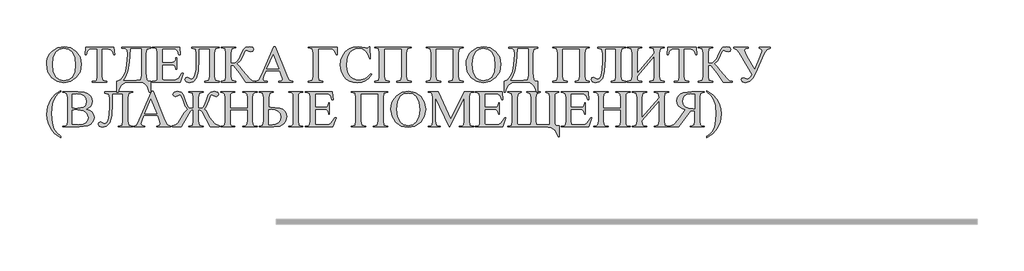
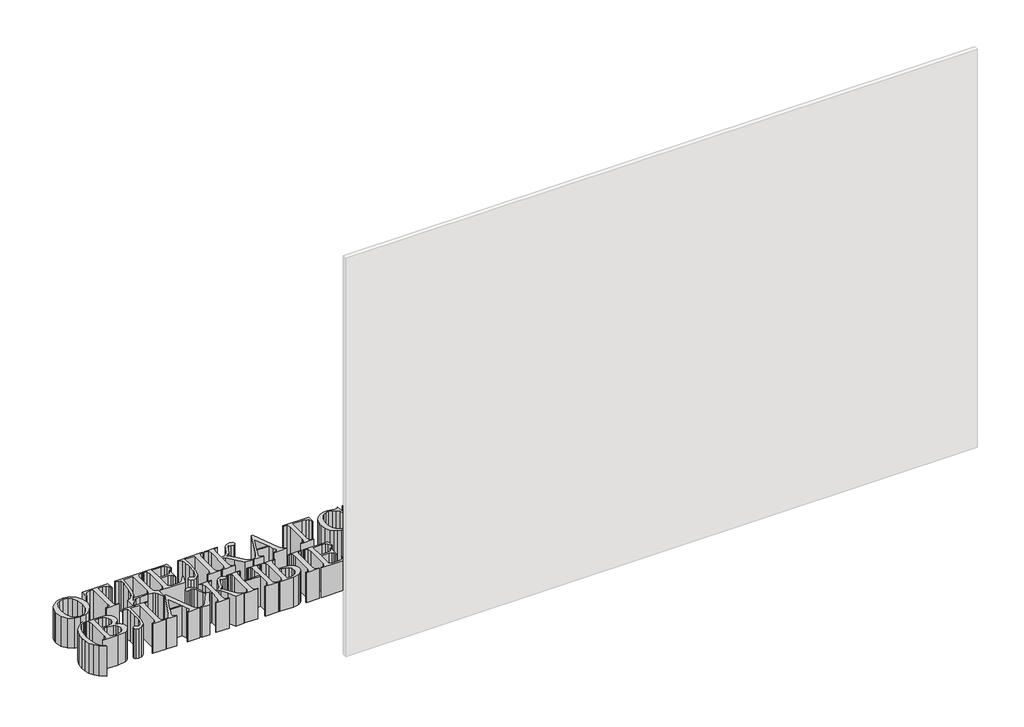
# One storey, part 2 of 17: 1 proxy.
"""IFC4 building model written with IfcOpenShell, lengths in millimetres."""

from ifc_helpers import new_model, si_unit, origin, origin_with_axes, place, context, project, spatial, polyline, outline, extrude, element, save

model = new_model("IFC4")

# Units and contexts
model_context = context("Model", 3, world=origin())
ifc_project = project(units=[si_unit("LENGTHUNIT", "METRE", prefix="MILLI")], contexts=[model_context])

# Site, building, storey
site = spatial("IfcSite", under=ifc_project)
building = spatial("IfcBuilding", under=site)
storey = spatial("IfcBuildingStorey", under=building, Name="Уровень 1", Elevation=0.0)

# Proxy
placement = place(None, origin())
element("IfcBuildingElementProxy", 1, Name="SG_Текст 2", ObjectType="SG_Текст 2", at=placement, inside=storey, context=model_context, shape_type="SweptSolid", body=[
    extrude(outline(polyline([(-694.4542029, -15782.53194), (-666.748358, -15787.9926565), (-643.0048009, -15804.3748058), (-626.682991, -15828.9228883), (-621.2423877, -15858.8814045), (-626.7232173, -15889.6897006), (-643.165706, -15914.7758095), (-667.3919784, -15931.444571), (-696.2241589, -15937.0008249), (-725.2021597, -15931.5803347), (-749.1418199, -15915.3188642), (-765.2071873, -15890.4489715), (-770.5623098, -15859.2032146), (-769.0161124, -15842.4313733), (-764.3775204, -15827.2736112), (-756.6465337, -15813.7299282), (-745.8231524, -15801.8003244), (-722.2405004, -15787.3490361), (-694.4542029, -15782.53194)]), holes=[polyline([(-696.5861954, -15790.2553843), (-715.0299411, -15793.9360882), (-729.4108334, -15804.9781998), (-740.9658301, -15827.5753082), (-744.8174956, -15858.6802731), (-740.8250381, -15890.7204988), (-728.8476656, -15914.4338862), (-714.6176218, -15925.566507), (-696.4655165, -15929.2773806), (-676.8552089, -15925.2145272), (-660.9859445, -15913.0259667), (-650.4868875, -15892.0781355), (-646.9872019, -15861.7374698), (-650.8388674, -15828.5910216), (-662.3938641, -15805.0988787), (-677.1166797, -15793.9662579), (-696.5861954, -15790.2553843)])]), origin_with_axes(), (0.0, 0.0, 1.0), 150.0),
    extrude(outline(polyline([(-482.2203913, -15785.1064214), (-479.6459099, -15818.5746798), (-483.8294422, -15818.5746798), (-487.2486753, -15805.30001), (-496.6012836, -15795.8669492), (-512.028059, -15792.8298657), (-533.7100196, -15792.8298657), (-533.7100196, -15908.6815293), (-530.813728, -15926.9442569), (-518.1826786, -15931.8518621), (-513.1141683, -15931.8518621), (-513.1141683, -15934.4263435), (-574.9017223, -15934.4263435), (-574.9017223, -15931.8518621), (-569.7527594, -15931.8518621), (-561.8784667, -15930.3333203), (-556.679221, -15925.777695), (-554.3058709, -15908.6815293), (-554.3058709, -15792.8298657), (-572.1663357, -15792.8298657), (-586.9696039, -15794.358464), (-596.744588, -15802.4238316), (-601.5717407, -15818.5746798), (-605.7954992, -15818.5746798), (-603.2210178, -15785.1064214), (-482.2203913, -15785.1064214)])), origin_with_axes(), (0.0, 0.0, 1.0), 150.0),
    extrude(outline(polyline([(-448.7521329, -15785.1064214), (-325.1770251, -15785.1064214), (-325.1770251, -15790.2553843), (-342.0921725, -15794.6400479), (-345.7728764, -15813.2245856), (-345.7728764, -15895.4470858), (-343.0173767, -15924.9329433), (-337.179539, -15929.1567018), (-325.1770251, -15930.5646213), (-325.1770251, -15978.1925275), (-330.3259879, -15978.1925275), (-340.6038004, -15951.4219434), (-348.1763961, -15942.9492849), (-356.6943092, -15937.8455766), (-378.235478, -15934.4263435), (-415.0827432, -15934.4263435), (-436.0506875, -15937.8757463), (-450.6025415, -15948.2239548), (-459.6735658, -15962.6149036), (-464.1990214, -15978.1925275), (-469.3479843, -15978.1925275), (-469.3479843, -15930.5646213), (-453.9966332, -15924.520624), (-441.813101, -15909.4458285), (-432.837614, -15887.6230759), (-427.1103986, -15861.3352071), (-423.0073188, -15814.5520526), (-425.8633841, -15798.4615438), (-432.641511, -15792.0052271), (-448.7521329, -15790.2553843), (-448.7521329, -15785.1064214)]), holes=[polyline([(-410.1349117, -15792.8298657), (-414.0971995, -15848.7494122), (-420.5132899, -15885.0485945), (-429.4636355, -15908.7066707), (-441.0286887, -15926.7028992), (-386.6427688, -15926.7028992), (-369.2449061, -15924.1083047), (-366.3687277, -15907.1931573), (-366.3687277, -15792.8298657), (-410.1349117, -15792.8298657)])]), origin_with_axes(), (0.0, 0.0, 1.0), 150.0),
    extrude(outline(polyline([(-276.2618782, -15792.8298657), (-276.2618782, -15852.0429382), (-240.2191384, -15852.0429382), (-223.3643304, -15848.3823474), (-218.949497, -15841.734956), (-217.0488056, -15831.4470869), (-214.4743242, -15831.4470869), (-214.4743242, -15880.3622338), (-217.0488056, -15880.3622338), (-220.1060023, -15867.4093741), (-226.5019796, -15861.7978092), (-240.2191384, -15859.7663824), (-276.2618782, -15859.7663824), (-276.2618782, -15909.7274124), (-275.3366739, -15921.9561991), (-272.098459, -15925.4156585), (-263.3492448, -15926.7028992), (-236.7999052, -15926.7028992), (-217.5114078, -15924.8524907), (-205.9463545, -15917.5313092), (-191.3039915, -15895.8091223), (-186.1550287, -15895.8091223), (-199.7515086, -15934.4263435), (-317.4535808, -15934.4263435), (-317.4535808, -15931.8518621), (-312.3448443, -15931.8518621), (-302.6905389, -15929.1969281), (-298.0846308, -15923.706042), (-296.8577295, -15908.6815293), (-296.8577295, -15810.8512356), (-299.6333423, -15792.3471504), (-312.3448443, -15787.6809028), (-317.4535808, -15787.6809028), (-317.4535808, -15785.1064214), (-201.6019172, -15785.1064214), (-199.0274357, -15818.5746798), (-204.1763986, -15818.5746798), (-209.4460402, -15801.599193), (-218.0142362, -15794.5595954), (-234.0242925, -15792.8298657), (-276.2618782, -15792.8298657)])), origin_with_axes(), (0.0, 0.0, 1.0), 150.0),
    extrude(outline(polyline([(-72.8778464, -15792.8298657), (-119.2185119, -15792.8298657), (-119.2185119, -15835.0272251), (-122.0041812, -15887.6985001), (-130.3611893, -15917.953685), (-143.6157459, -15932.2390399), (-161.0940612, -15937.0008249), (-173.926242, -15933.0184239), (-178.4315844, -15923.7663814), (-175.5352928, -15916.7871232), (-168.4956952, -15913.8304922), (-160.5711196, -15917.4910829), (-151.5202084, -15921.5539364), (-142.6855134, -15917.5564506), (-135.650944, -15905.5639932), (-131.0500642, -15882.4188019), (-129.5164376, -15844.9631143), (-129.5164376, -15813.5061695), (-133.1971414, -15794.6802742), (-150.1122889, -15790.2553843), (-150.1122889, -15785.1064214), (-31.6861438, -15785.1064214), (-31.6861438, -15787.6809028), (-48.6012912, -15792.0856796), (-52.2819951, -15810.8512356), (-52.2819951, -15908.6815293), (-48.6012912, -15927.4470853), (-31.6861438, -15931.8518621), (-31.6861438, -15934.4263435), (-93.4736977, -15934.4263435), (-93.4736977, -15931.8518621), (-76.5585503, -15927.4470853), (-72.8778464, -15908.6815293), (-72.8778464, -15792.8298657)])), origin_with_axes(), (0.0, 0.0, 1.0), 150.0),
    extrude(outline(polyline([(121.4150478, -15930.3232637), (121.4150478, -15934.4263435), (82.4357901, -15934.4263435), (55.6450929, -15896.5935346), (30.7450305, -15865.619305), (17.2290031, -15862.3408639), (17.2290031, -15908.6815293), (20.8493676, -15927.4470853), (37.8248544, -15931.8518621), (37.8248544, -15934.4263435), (-23.9626996, -15934.4263435), (-23.9626996, -15931.8518621), (-7.0877784, -15927.4873115), (-3.3668482, -15908.6815293), (-3.3668482, -15810.8512356), (-7.0475521, -15792.0856796), (-23.9626996, -15787.6809028), (-23.9626996, -15785.1064214), (37.8248544, -15785.1064214), (37.8248544, -15787.6809028), (20.8493676, -15792.0856796), (17.2290031, -15810.8512356), (17.2290031, -15854.6174196), (34.1039242, -15852.9882556), (44.6432075, -15846.0693368), (53.9153632, -15834.423831), (62.6846905, -15813.9084323), (70.8908501, -15795.2836683), (81.1083232, -15786.2930965), (97.8424524, -15782.53194), (110.7550857, -15785.629363), (115.0592968, -15794.9216318), (111.6601768, -15802.484171), (103.8763932, -15805.7022727), (93.3773362, -15801.6394193), (84.3666512, -15797.9788285), (78.2120316, -15801.7198718), (70.0460983, -15820.7871248), (57.8575379, -15844.1686454), (42.6922333, -15857.1114485), (53.3924217, -15865.9008889), (69.3220254, -15885.6721017), (98.4056202, -15921.2321262), (108.8644509, -15927.9096874), (121.4150478, -15930.3232637)])), origin_with_axes(), (0.0, 0.0, 1.0), 150.0),
    extrude(outline(polyline([(226.6872019, -15885.5111966), (168.4395599, -15885.5111966), (158.8254809, -15907.8770039), (155.0844376, -15921.795294), (158.3427656, -15928.2314976), (172.4219608, -15931.8518621), (172.4219608, -15934.4263435), (124.9549598, -15934.4263435), (124.9549598, -15931.8518621), (137.1032939, -15927.1856145), (149.6136646, -15903.8141504), (201.9882708, -15782.53194), (207.4992701, -15782.53194), (256.6557746, -15905.7852377), (268.1202622, -15926.5017679), (282.440815, -15931.8518621), (282.440815, -15934.4263435), (223.4288739, -15934.4263435), (223.4288739, -15931.8518621), (235.5168686, -15928.5331946), (238.674631, -15921.6343889), (234.2497411, -15904.497997), (226.6872019, -15885.5111966)]), holes=[polyline([(223.5897789, -15877.7877523), (198.7299428, -15817.1667603), (171.7783405, -15877.7877523), (223.5897789, -15877.7877523)])]), origin_with_axes(), (0.0, 0.0, 1.0), 150.0),
    extrude(outline(polyline([(472.2685931, -15785.1064214), (472.9122134, -15818.5746798), (467.7632506, -15818.5746798), (462.9964374, -15802.2629265), (452.5174935, -15794.4791428), (434.5765761, -15792.8298657), (390.5288082, -15792.8298657), (390.5288082, -15908.6815293), (394.1893989, -15927.4470853), (411.1246595, -15931.8518621), (411.1246595, -15934.4263435), (349.3371055, -15934.4263435), (349.3371055, -15931.8518621), (366.252253, -15927.4470853), (369.9329569, -15908.6815293), (369.9329569, -15810.8512356), (366.252253, -15792.0856796), (349.3371055, -15787.6809028), (349.3371055, -15785.1064214), (472.2685931, -15785.1064214)])), origin_with_axes(), (0.0, 0.0, 1.0), 150.0),
    extrude(outline(polyline([(611.9342098, -15782.53194), (614.5086912, -15834.0215683), (611.9342098, -15834.0215683), (603.8235877, -15813.9939131), (592.8468437, -15800.4929705), (579.2051092, -15792.8147808), (563.0995155, -15790.2553843), (549.2365365, -15792.1108211), (536.7714204, -15797.6771315), (526.2623068, -15807.3113236), (518.2673352, -15821.3704057), (513.2139098, -15839.628105), (511.5294346, -15861.8581486), (513.1334572, -15880.4829126), (517.945525, -15896.4527426), (525.9857512, -15909.3854891), (537.2742488, -15918.8990024), (551.0919733, -15924.751925), (566.71988, -15926.7028992), (592.0825445, -15921.0108817), (603.6224563, -15912.5080535), (616.2384209, -15898.3836037), (619.6576541, -15900.9580851), (607.5445179, -15917.1541879), (593.5709166, -15928.3320632), (577.2641915, -15934.8336345), (558.151684, -15937.0008249), (540.7110809, -15935.2987507), (525.3572157, -15930.1925283), (512.0900883, -15921.6821576), (500.9096988, -15909.7676387), (489.5658901, -15887.7035284), (485.7846205, -15862.05928), (488.2836777, -15840.8348931), (495.7808491, -15821.410632), (507.6626842, -15804.9731716), (523.3157324, -15792.7091869), (541.668969, -15785.0762517), (561.6513697, -15782.53194), (593.5105772, -15788.445202), (600.1076858, -15790.2553843), (605.2968749, -15788.6865596), (609.3597284, -15782.53194), (611.9342098, -15782.53194)])), origin_with_axes(), (0.0, 0.0, 1.0), 150.0),
    extrude(outline(polyline([(748.3817248, -15792.8298657), (673.7217638, -15792.8298657), (673.7217638, -15908.6815293), (677.3421282, -15927.4470853), (694.3176151, -15931.8518621), (694.3176151, -15934.4263435), (632.5300611, -15934.4263435), (632.5300611, -15931.8518621), (649.4452085, -15927.4470853), (653.1259124, -15908.6815293), (653.1259124, -15810.8512356), (649.4452085, -15792.0856796), (632.5300611, -15787.6809028), (632.5300611, -15785.1064214), (789.5734274, -15785.1064214), (789.5734274, -15787.6809028), (772.65828, -15792.0856796), (768.9775761, -15810.8512356), (768.9775761, -15908.6815293), (772.65828, -15927.4470853), (789.5734274, -15931.8518621), (789.5734274, -15934.4263435), (727.7858735, -15934.4263435), (727.7858735, -15931.8518621), (744.6809077, -15927.4873115), (748.3817248, -15908.6815293), (748.3817248, -15792.8298657)])), origin_with_axes(), (0.0, 0.0, 1.0), 150.0),
    extrude(outline(polyline([(969.7871264, -15792.8298657), (895.1271654, -15792.8298657), (895.1271654, -15908.6815293), (898.7475299, -15927.4470853), (915.7230167, -15931.8518621), (915.7230167, -15934.4263435), (853.9354628, -15934.4263435), (853.9354628, -15931.8518621), (870.8506102, -15927.4470853), (874.5313141, -15908.6815293), (874.5313141, -15810.8512356), (870.8506102, -15792.0856796), (853.9354628, -15787.6809028), (853.9354628, -15785.1064214), (1010.978829, -15785.1064214), (1010.978829, -15787.6809028), (994.0636816, -15792.0856796), (990.3829777, -15810.8512356), (990.3829777, -15908.6815293), (994.0636816, -15927.4470853), (1010.978829, -15931.8518621), (1010.978829, -15934.4263435), (949.1912751, -15934.4263435), (949.1912751, -15931.8518621), (966.0863094, -15927.4873115), (969.7871264, -15908.6815293), (969.7871264, -15792.8298657)])), origin_with_axes(), (0.0, 0.0, 1.0), 150.0),
    extrude(outline(polyline([(1099.9593429, -15782.53194), (1127.6651878, -15787.9926565), (1151.408745, -15804.3748058), (1167.7305549, -15828.9228883), (1173.1711582, -15858.8814045), (1167.6903286, -15889.6897006), (1151.2478399, -15914.7758095), (1127.0215675, -15931.444571), (1098.189387, -15937.0008249), (1069.2113862, -15931.5803347), (1045.271726, -15915.3188642), (1029.2063586, -15890.4489715), (1023.8512361, -15859.2032146), (1025.3974335, -15842.4313733), (1030.0360255, -15827.2736112), (1037.7670121, -15813.7299282), (1048.5903935, -15801.8003244), (1072.1730455, -15787.3490361), (1099.9593429, -15782.53194)]), holes=[polyline([(1097.8273505, -15790.2553843), (1079.3836048, -15793.9360882), (1065.0027125, -15804.9781998), (1053.4477158, -15827.5753082), (1049.5960503, -15858.6802731), (1053.5885078, -15890.7204988), (1065.5658803, -15914.4338862), (1079.795924, -15925.566507), (1097.9480293, -15929.2773806), (1117.558337, -15925.2145272), (1133.4276013, -15913.0259667), (1143.9266583, -15892.0781355), (1147.426344, -15861.7374698), (1143.5746785, -15828.5910216), (1132.0196818, -15805.0988787), (1117.2968662, -15793.9662579), (1097.8273505, -15790.2553843)])]), origin_with_axes(), (0.0, 0.0, 1.0), 150.0),
    extrude(outline(polyline([(1206.6394165, -15785.1064214), (1330.2145244, -15785.1064214), (1330.2145244, -15790.2553843), (1313.299377, -15794.6400479), (1309.6186731, -15813.2245856), (1309.6186731, -15895.4470858), (1312.3741728, -15924.9329433), (1318.2120105, -15929.1567018), (1330.2145244, -15930.5646213), (1330.2145244, -15978.1925275), (1325.0655616, -15978.1925275), (1314.7877491, -15951.4219434), (1307.2151534, -15942.9492849), (1298.6972403, -15937.8455766), (1277.1560715, -15934.4263435), (1240.3088063, -15934.4263435), (1219.340862, -15937.8757463), (1204.789008, -15948.2239548), (1195.7179837, -15962.6149036), (1191.1925281, -15978.1925275), (1186.0435652, -15978.1925275), (1186.0435652, -15930.5646213), (1201.3949163, -15924.520624), (1213.5784485, -15909.4458285), (1222.5539354, -15887.6230759), (1228.2811509, -15861.3352071), (1232.3842307, -15814.5520526), (1229.5281654, -15798.4615438), (1222.7500385, -15792.0052271), (1206.6394165, -15790.2553843), (1206.6394165, -15785.1064214)]), holes=[polyline([(1245.2566378, -15792.8298657), (1241.29435, -15848.7494122), (1234.8782596, -15885.0485945), (1225.927914, -15908.7066707), (1214.3628608, -15926.7028992), (1268.7487807, -15926.7028992), (1286.1466434, -15924.1083047), (1289.0228218, -15907.1931573), (1289.0228218, -15792.8298657), (1245.2566378, -15792.8298657)])]), origin_with_axes(), (0.0, 0.0, 1.0), 150.0),
    extrude(outline(polyline([(1510.4282235, -15792.8298657), (1435.7682624, -15792.8298657), (1435.7682624, -15908.6815293), (1439.3886269, -15927.4470853), (1456.3641137, -15931.8518621), (1456.3641137, -15934.4263435), (1394.5765598, -15934.4263435), (1394.5765598, -15931.8518621), (1411.4917072, -15927.4470853), (1415.1724111, -15908.6815293), (1415.1724111, -15810.8512356), (1411.4917072, -15792.0856796), (1394.5765598, -15787.6809028), (1394.5765598, -15785.1064214), (1551.6199261, -15785.1064214), (1551.6199261, -15787.6809028), (1534.7047787, -15792.0856796), (1531.0240748, -15810.8512356), (1531.0240748, -15908.6815293), (1534.7047787, -15927.4470853), (1551.6199261, -15931.8518621), (1551.6199261, -15934.4263435), (1489.8323721, -15934.4263435), (1489.8323721, -15931.8518621), (1506.7274064, -15927.4873115), (1510.4282235, -15908.6815293), (1510.4282235, -15792.8298657)])), origin_with_axes(), (0.0, 0.0, 1.0), 150.0),
    extrude(outline(polyline([(1664.8971083, -15792.8298657), (1618.5564429, -15792.8298657), (1618.5564429, -15835.0272251), (1615.7707735, -15887.6985001), (1607.4137655, -15917.953685), (1594.1592088, -15932.2390399), (1576.6808936, -15937.0008249), (1563.8487128, -15933.0184239), (1559.3433703, -15923.7663814), (1562.2396619, -15916.7871232), (1569.2792595, -15913.8304922), (1577.2038351, -15917.4910829), (1586.2547464, -15921.5539364), (1595.0894414, -15917.5564506), (1602.1240107, -15905.5639932), (1606.7248906, -15882.4188019), (1608.2585172, -15844.9631143), (1608.2585172, -15813.5061695), (1604.5778133, -15794.6802742), (1587.6626659, -15790.2553843), (1587.6626659, -15785.1064214), (1706.088811, -15785.1064214), (1706.088811, -15787.6809028), (1689.1736635, -15792.0856796), (1685.4929596, -15810.8512356), (1685.4929596, -15908.6815293), (1689.1736635, -15927.4470853), (1706.088811, -15931.8518621), (1706.088811, -15934.4263435), (1644.301257, -15934.4263435), (1644.301257, -15931.8518621), (1661.2164044, -15927.4470853), (1664.8971083, -15908.6815293), (1664.8971083, -15792.8298657)])), origin_with_axes(), (0.0, 0.0, 1.0), 150.0),
    extrude(outline(polyline([(1829.6639188, -15810.8512356), (1825.5809522, -15791.7035301), (1809.0680675, -15787.6809028), (1809.0680675, -15785.1064214), (1870.8556215, -15785.1064214), (1870.8556215, -15787.6809028), (1853.9404741, -15792.0856796), (1850.2597702, -15810.8512356), (1850.2597702, -15908.6815293), (1853.9404741, -15927.4470853), (1870.8556215, -15931.8518621), (1870.8556215, -15934.4263435), (1809.0680675, -15934.4263435), (1809.0680675, -15931.8518621), (1826.0435544, -15927.3867459), (1829.6639188, -15908.6815293), (1829.6639188, -15823.7236426), (1755.0039578, -15908.6815293), (1756.210746, -15923.5049106), (1761.3194825, -15929.4382857), (1775.5998091, -15931.8518621), (1775.5998091, -15934.4263435), (1713.8122552, -15934.4263435), (1713.8122552, -15931.8518621), (1730.7274026, -15927.4470853), (1734.4081065, -15908.6815293), (1734.4081065, -15810.8512356), (1730.7274026, -15792.0856796), (1713.8122552, -15787.6809028), (1713.8122552, -15785.1064214), (1775.5998091, -15785.1064214), (1775.5998091, -15787.6809028), (1758.6645486, -15792.0856796), (1755.0039578, -15810.8512356), (1755.0039578, -15895.8091223), (1829.6639188, -15810.8512356)])), origin_with_axes(), (0.0, 0.0, 1.0), 150.0),
    extrude(outline(polyline([(2007.3031364, -15785.1064214), (2009.8776179, -15818.5746798), (2005.6940856, -15818.5746798), (2002.2748524, -15805.30001), (1992.9222442, -15795.8669492), (1977.4954688, -15792.8298657), (1955.8135082, -15792.8298657), (1955.8135082, -15908.6815293), (1958.7097997, -15926.9442569), (1971.3408492, -15931.8518621), (1976.4093595, -15931.8518621), (1976.4093595, -15934.4263435), (1914.6218055, -15934.4263435), (1914.6218055, -15931.8518621), (1919.7707684, -15931.8518621), (1927.6450611, -15930.3333203), (1932.8443068, -15925.777695), (1935.2176568, -15908.6815293), (1935.2176568, -15792.8298657), (1917.357192, -15792.8298657), (1902.5539239, -15794.358464), (1892.7789398, -15802.4238316), (1887.9517871, -15818.5746798), (1883.7280285, -15818.5746798), (1886.30251, -15785.1064214), (2007.3031364, -15785.1064214)])), origin_with_axes(), (0.0, 0.0, 1.0), 150.0),
    extrude(outline(polyline([(2162.9788095, -15930.3232637), (2162.9788095, -15934.4263435), (2123.9995518, -15934.4263435), (2097.2088546, -15896.5935346), (2072.3087922, -15865.619305), (2058.7927647, -15862.3408639), (2058.7927647, -15908.6815293), (2062.4131292, -15927.4470853), (2079.388616, -15931.8518621), (2079.388616, -15934.4263435), (2017.6010621, -15934.4263435), (2017.6010621, -15931.8518621), (2034.4759832, -15927.4873115), (2038.1969134, -15908.6815293), (2038.1969134, -15810.8512356), (2034.5162095, -15792.0856796), (2017.6010621, -15787.6809028), (2017.6010621, -15785.1064214), (2079.388616, -15785.1064214), (2079.388616, -15787.6809028), (2062.4131292, -15792.0856796), (2058.7927647, -15810.8512356), (2058.7927647, -15854.6174196), (2075.6676859, -15852.9882556), (2086.2069692, -15846.0693368), (2095.4791249, -15834.423831), (2104.2484522, -15813.9084323), (2112.4546117, -15795.2836683), (2122.6720848, -15786.2930965), (2139.406214, -15782.53194), (2152.3188474, -15785.629363), (2156.6230585, -15794.9216318), (2153.2239385, -15802.484171), (2145.4401548, -15805.7022727), (2134.9410978, -15801.6394193), (2125.9304129, -15797.9788285), (2119.7757932, -15801.7198718), (2111.60986, -15820.7871248), (2099.4212996, -15844.1686454), (2084.255995, -15857.1114485), (2094.9561833, -15865.9008889), (2110.8857871, -15885.6721017), (2139.9693818, -15921.2321262), (2150.4282126, -15927.9096874), (2162.9788095, -15930.3232637)])), origin_with_axes(), (0.0, 0.0, 1.0), 150.0),
    extrude(outline(polyline([(2169.4954656, -15785.1064214), (2231.2830195, -15785.1064214), (2231.2830195, -15790.2553843), (2217.7669921, -15792.5281686), (2213.2616496, -15798.1397336), (2225.2088524, -15823.7638689), (2258.3150744, -15880.7242702), (2282.7726478, -15823.7638689), (2290.496092, -15800.0705947), (2287.2779903, -15793.6343911), (2277.623685, -15790.2553843), (2277.623685, -15785.1064214), (2323.9643504, -15785.1064214), (2323.9643504, -15790.2553843), (2309.4527228, -15796.5809655), (2298.9033829, -15811.7764398), (2269.9002407, -15879.5174821), (2251.5369475, -15916.3044079), (2236.1101722, -15932.0127671), (2218.7726489, -15937.0008249), (2205.7192236, -15933.9034019), (2200.3892425, -15925.4558848), (2203.124629, -15918.979455), (2210.5664894, -15916.4049736), (2221.5482617, -15919.5828491), (2228.0246915, -15921.5539364), (2237.1962815, -15916.7167272), (2247.4137546, -15902.2050995), (2192.9876085, -15808.6790169), (2182.5287777, -15795.4646865), (2169.4954656, -15790.2553843), (2169.4954656, -15785.1064214)])), origin_with_axes(), (0.0, 0.0, 1.0), 150.0),
    extrude(outline(polyline([(-708.7747558, -16166.8097487), (-708.7747558, -16171.9587116), (-736.9733725, -16152.7305535), (-751.2536991, -16135.6796424), (-761.8332087, -16115.8229488), (-768.3800345, -16094.156073), (-770.5623098, -16071.6746152), (-766.2832401, -16039.6746158), (-753.446031, -16010.6111342), (-733.7200728, -15986.9480296), (-708.7747558, -15971.1491612), (-708.7747558, -15976.2981241), (-721.632078, -15984.9115746), (-731.9652017, -15996.1900156), (-739.884749, -16010.4904553), (-745.5013422, -16028.1699019), (-749.9664584, -16068.6174185), (-746.1851889, -16110.2113839), (-738.964573, -16133.9046582), (-727.5403117, -16151.0812763), (-708.7747558, -16166.8097487)])), origin_with_axes(), (0.0, 0.0, 1.0), 150.0),
    extrude(outline(polyline([(-601.4912881, -16050.2742385), (-587.7741293, -16054.5181102), (-577.9991452, -16060.7330692), (-569.8834948, -16071.86569), (-567.178278, -16085.2308689), (-568.9331491, -16095.9863684), (-574.1977625, -16106.2893224), (-582.5195725, -16115.0033385), (-593.4460337, -16120.9920248), (-630.8162405, -16125.6180461), (-701.0513116, -16125.6180461), (-701.0513116, -16123.0435647), (-695.7012174, -16123.0435647), (-688.028056, -16121.5049098), (-682.8690366, -16116.8889451), (-680.4554602, -16099.873232), (-680.4554602, -16002.0429382), (-683.5126569, -15983.9008895), (-695.7012174, -15978.8726055), (-701.0513116, -15978.8726055), (-701.0513116, -15976.2981241), (-637.1719915, -15976.2981241), (-608.4906595, -15978.953058), (-594.0594843, -15984.5193684), (-583.5101445, -15993.1730452), (-577.0538278, -16004.1397326), (-574.9017223, -16016.645075), (-576.5861974, -16027.3955462), (-581.6396228, -16036.9593424), (-589.9714894, -16044.7732957), (-601.4912881, -16050.2742385)]), holes=[polyline([(-659.8596089, -16114.958084), (-634.3159261, -16117.8946019), (-616.520829, -16115.6771286), (-603.5227149, -16109.0247089), (-595.5729978, -16099.1139611), (-592.9230922, -16087.1215037), (-597.7703579, -16070.608619), (-604.1059958, -16063.508682), (-613.4183778, -16058.0982484), (-640.1487356, -16053.5325665), (-651.9551465, -16053.753811), (-659.8596089, -16054.497997), (-659.8596089, -16114.958084)]), polyline([(-659.8596089, -16044.2402976), (-650.4466613, -16045.4068595), (-638.8212686, -16045.8091223), (-614.343582, -16042.3094366), (-607.5151724, -16037.8845466), (-603.402036, -16031.6092482), (-600.6465364, -16015.8405495), (-603.2109612, -16003.6167911), (-610.9042358, -15993.3339503), (-623.5151721, -15986.3496638), (-640.8325822, -15984.0215683), (-659.8596089, -15986.4753709), (-659.8596089, -16044.2402976)])]), origin_with_axes(), (0.0, 0.0, 1.0), 150.0),
    extrude(outline(polyline([(-443.6031701, -15984.0215683), (-489.9438356, -15984.0215683), (-489.9438356, -16026.2189277), (-492.7295049, -16078.8902028), (-501.0865129, -16109.1453877), (-514.3410696, -16123.4307426), (-531.8193848, -16128.1925275), (-544.6515656, -16124.2101266), (-549.1569081, -16114.958084), (-546.2606165, -16107.9788258), (-539.2210189, -16105.0221948), (-531.2964433, -16108.6827855), (-522.2455321, -16112.745639), (-513.4108371, -16108.7481532), (-506.3762677, -16096.7556959), (-501.7753879, -16073.6105046), (-500.2417612, -16036.1548169), (-500.2417612, -16004.6978722), (-503.9224651, -15985.8719768), (-520.8376125, -15981.4470869), (-520.8376125, -15976.2981241), (-402.4114675, -15976.2981241), (-402.4114675, -15978.8726055), (-419.3266149, -15983.2773823), (-423.0073188, -16002.0429382), (-423.0073188, -16099.873232), (-419.3266149, -16118.6387879), (-402.4114675, -16123.0435647), (-402.4114675, -16125.6180461), (-464.1990214, -16125.6180461), (-464.1990214, -16123.0435647), (-447.283874, -16118.6387879), (-443.6031701, -16099.873232), (-443.6031701, -15984.0215683)])), origin_with_axes(), (0.0, 0.0, 1.0), 150.0),
    extrude(outline(polyline([(-295.9325252, -16076.7028992), (-354.1801672, -16076.7028992), (-363.7942463, -16099.0687065), (-367.5352896, -16112.9869967), (-364.2769615, -16119.4232002), (-350.1977663, -16123.0435647), (-350.1977663, -16125.6180461), (-397.6647674, -16125.6180461), (-397.6647674, -16123.0435647), (-385.5164332, -16118.3773171), (-373.0060626, -16095.005853), (-320.6314563, -15973.7236426), (-315.120457, -15973.7236426), (-265.9639525, -16096.9769404), (-254.499465, -16117.6934705), (-240.1789121, -16123.0435647), (-240.1789121, -16125.6180461), (-299.1908533, -16125.6180461), (-299.1908533, -16123.0435647), (-287.1028585, -16119.7248972), (-283.9450961, -16112.8260916), (-288.3699861, -16095.6896997), (-295.9325252, -16076.7028992)]), holes=[polyline([(-299.0299482, -16068.979455), (-323.8897843, -16008.3584629), (-350.8413867, -16068.979455), (-299.0299482, -16068.979455)])]), origin_with_axes(), (0.0, 0.0, 1.0), 150.0),
    extrude(outline(polyline([(-162.9846959, -16125.6180461), (-162.9846959, -16123.0435647), (-146.0494354, -16118.6387879), (-142.3888446, -16099.873232), (-142.3888446, -16053.5325665), (-145.5264938, -16053.452114), (-152.344847, -16054.8399203), (-156.6490581, -16058.5005111), (-171.4724394, -16084.7481536), (-193.7175678, -16125.6180461), (-232.4956941, -16125.6180461), (-232.4956941, -16120.4690833), (-217.8734442, -16116.8788885), (-207.5554054, -16109.0045957), (-180.8451608, -16065.6004481), (-167.3291333, -16049.6708444), (-177.5063802, -16037.9448861), (-186.6779702, -16011.8179223), (-193.5566627, -15992.851235), (-199.7515086, -15989.1705311), (-209.3655877, -15993.1127058), (-219.0601192, -15996.8939754), (-226.8439029, -15994.0379101), (-229.9212127, -15986.9580862), (-225.234852, -15977.766383), (-211.3769013, -15973.7236426), (-195.3065056, -15978.3697771), (-185.1895981, -15989.2509837), (-176.7018547, -16013.3867469), (-169.1594287, -16035.1491601), (-161.657229, -16043.5765641), (-149.2273109, -16046.4527426), (-142.3888446, -16045.8091223), (-142.3888446, -16002.0429382), (-146.0494354, -15983.2773823), (-162.9846959, -15978.8726055), (-162.9846959, -15976.2981241), (-101.197142, -15976.2981241), (-101.197142, -15978.8726055), (-118.1525157, -15983.2773823), (-121.7929933, -16002.0429382), (-121.7929933, -16045.8091223), (-115.9601839, -16046.4527426), (-102.7458535, -16043.5765641), (-95.3039931, -16035.3301784), (-87.600662, -16013.3867469), (-79.1933712, -15989.4320019), (-69.0563506, -15978.4904559), (-52.8853892, -15973.7236426), (-39.1883435, -15977.6054779), (-34.2606252, -15986.9580862), (-37.2775956, -15994.0379101), (-45.1217187, -15996.8939754), (-54.8967028, -15993.1127058), (-64.7521395, -15989.1705311), (-70.8061934, -15993.0724795), (-77.6245465, -16011.8179223), (-86.8765891, -16038.0052255), (-97.0136097, -16049.6708444), (-87.1782862, -16058.0781352), (-71.5906057, -16086.5583359), (-52.1412032, -16113.8116352), (-31.6861438, -16120.4690833), (-31.6861438, -16125.6180461), (-70.5849489, -16125.6180461), (-87.8420197, -16093.7990649), (-105.3002217, -16061.9800836), (-109.9061299, -16056.2277267), (-118.8967017, -16053.452114), (-121.7929933, -16053.5325665), (-121.7929933, -16099.873232), (-118.1525157, -16118.6387879), (-101.197142, -16123.0435647), (-101.197142, -16125.6180461), (-162.9846959, -16125.6180461)])), origin_with_axes(), (0.0, 0.0, 1.0), 150.0),
    extrude(outline(polyline([(14.6545217, -16045.8091223), (89.3144827, -16045.8091223), (89.3144827, -16002.0429382), (87.9467894, -15986.4753709), (83.4816732, -15981.607992), (73.8273679, -15978.8726055), (68.7186314, -15978.8726055), (68.7186314, -15976.2981241), (130.5061853, -15976.2981241), (130.5061853, -15978.8726055), (125.3974488, -15978.8726055), (115.7431434, -15981.4873132), (111.1372353, -15986.9983124), (109.910334, -16002.0429382), (109.910334, -16099.873232), (111.2780272, -16115.400573), (115.6626909, -16120.3081782), (125.3974488, -16123.0435647), (130.5061853, -16123.0435647), (130.5061853, -16125.6180461), (68.7186314, -16125.6180461), (68.7186314, -16123.0435647), (73.8273679, -16123.0435647), (81.4401899, -16121.6457017), (86.6595487, -16117.4521129), (89.3144827, -16099.873232), (89.3144827, -16053.5325665), (14.6545217, -16053.5325665), (14.6545217, -16099.873232), (16.0222149, -16115.400573), (20.4471048, -16120.3081782), (30.0611839, -16123.0435647), (35.250373, -16123.0435647), (35.250373, -16125.6180461), (-26.537181, -16125.6180461), (-26.537181, -16123.0435647), (-21.4284444, -16123.0435647), (-13.7452264, -16121.6457017), (-8.4755848, -16117.4521129), (-5.9413297, -16099.873232), (-5.9413297, -16002.0429382), (-7.3090229, -15986.4753709), (-11.6936866, -15981.607992), (-21.4284444, -15978.8726055), (-26.537181, -15978.8726055), (-26.537181, -15976.2981241), (35.250373, -15976.2981241), (35.250373, -15978.8726055), (30.0611839, -15978.8726055), (20.4471048, -15981.4873132), (15.9216492, -15986.9983124), (14.6545217, -16002.0429382), (14.6545217, -16045.8091223)])), origin_with_axes(), (0.0, 0.0, 1.0), 150.0),
    extrude(outline(polyline([(179.4213322, -16043.2346408), (185.5357255, -16043.2346408), (226.848107, -16046.7142134), (238.8204512, -16051.7877519), (248.3490494, -16060.0492226), (254.5790933, -16070.8902029), (256.6557746, -16083.7022706), (253.5633799, -16099.3754318), (244.2861959, -16113.0071098), (227.4364162, -16122.465312), (201.6262344, -16125.6180461), (138.2296296, -16125.6180461), (138.2296296, -16123.0435647), (155.144777, -16118.6387879), (158.8254809, -16099.873232), (158.8254809, -16002.0429382), (155.144777, -15983.2773823), (138.2296296, -15978.8726055), (138.2296296, -15976.2981241), (200.0171835, -15976.2981241), (200.0171835, -15978.8726055), (183.1020361, -15983.2773823), (179.4213322, -16002.0429382), (179.4213322, -16043.2346408)]), holes=[polyline([(179.4213322, -16116.3257772), (194.7877681, -16117.8946019), (207.9266742, -16115.6218175), (219.74817, -16108.8034644), (228.1202628, -16097.9725406), (230.9109605, -16083.6620443), (227.9945557, -16069.1655015), (219.2453416, -16058.9832264), (206.010898, -16052.9643704), (189.6388053, -16050.9580851), (179.4213322, -16051.8430631), (179.4213322, -16116.3257772)])]), origin_with_axes(), (0.0, 0.0, 1.0), 150.0),
    extrude(outline(polyline([(326.1667728, -16123.0435647), (326.1667728, -16125.6180461), (264.3792189, -16125.6180461), (264.3792189, -16123.0435647), (268.6432037, -16123.0435647), (278.599206, -16120.7707803), (283.7481689, -16114.8374052), (284.9750702, -16099.873232), (284.9750702, -16001.6406755), (283.6476032, -15986.8374074), (278.438301, -15980.8839191), (267.6777732, -15978.8726055), (264.3792189, -15978.8726055), (264.3792189, -15976.2981241), (326.1667728, -15976.2981241), (326.1667728, -15978.8726055), (322.9888973, -15978.8726055), (312.3691615, -15980.9241454), (306.9989541, -15986.9178599), (305.5709215, -16002.0429382), (305.5709215, -16099.873232), (308.8694758, -16118.357204), (314.0486083, -16121.8719745), (322.9888973, -16123.0435647), (326.1667728, -16123.0435647)])), origin_with_axes(), (0.0, 0.0, 1.0), 150.0),
    extrude(outline(polyline([(377.6564011, -15984.0215683), (377.6564011, -16043.2346408), (413.6991409, -16043.2346408), (430.5539489, -16039.5740501), (434.9687823, -16032.9266586), (436.8694736, -16022.6387895), (439.443955, -16022.6387895), (439.443955, -16071.5539364), (436.8694736, -16071.5539364), (433.8122769, -16058.6010768), (427.4162997, -16052.9895118), (413.6991409, -16050.9580851), (377.6564011, -16050.9580851), (377.6564011, -16100.919115), (378.5816054, -16113.1479017), (381.8198203, -16116.6073611), (390.5690344, -16117.8946019), (417.118374, -16117.8946019), (436.4068715, -16116.0441933), (447.9719247, -16108.7230118), (462.6142878, -16087.0008249), (467.7632506, -16087.0008249), (454.1667706, -16125.6180461), (336.4646985, -16125.6180461), (336.4646985, -16123.0435647), (341.573435, -16123.0435647), (351.2277403, -16120.3886307), (355.8336485, -16114.8977446), (357.0605498, -16099.873232), (357.0605498, -16002.0429382), (354.284937, -15983.538853), (341.573435, -15978.8726055), (336.4646985, -15978.8726055), (336.4646985, -15976.2981241), (452.3163621, -15976.2981241), (454.8908435, -16009.7663824), (449.7418807, -16009.7663824), (444.4722391, -15992.7908956), (435.9040431, -15985.751298), (419.8939868, -15984.0215683), (377.6564011, -15984.0215683)])), origin_with_axes(), (0.0, 0.0, 1.0), 150.0),
    extrude(outline(polyline([(647.9769496, -15984.0215683), (573.3169886, -15984.0215683), (573.3169886, -16099.873232), (576.9373531, -16118.6387879), (593.9128399, -16123.0435647), (593.9128399, -16125.6180461), (532.125286, -16125.6180461), (532.125286, -16123.0435647), (549.0404334, -16118.6387879), (552.7211373, -16099.873232), (552.7211373, -16002.0429382), (549.0404334, -15983.2773823), (532.125286, -15978.8726055), (532.125286, -15976.2981241), (689.1686522, -15976.2981241), (689.1686522, -15978.8726055), (672.2535048, -15983.2773823), (668.5728009, -16002.0429382), (668.5728009, -16099.873232), (672.2535048, -16118.6387879), (689.1686522, -16123.0435647), (689.1686522, -16125.6180461), (627.3810983, -16125.6180461), (627.3810983, -16123.0435647), (644.2761326, -16118.6790142), (647.9769496, -16099.873232), (647.9769496, -15984.0215683)])), origin_with_axes(), (0.0, 0.0, 1.0), 150.0),
    extrude(outline(polyline([(778.1491661, -15973.7236426), (805.855011, -15979.1843591), (829.5985681, -15995.5665084), (845.9203781, -16020.1145909), (851.3609814, -16050.0731071), (845.8801518, -16080.8814032), (829.4376631, -16105.9675122), (805.2113907, -16122.6362737), (776.3792102, -16128.1925275), (747.4012094, -16122.7720373), (723.4615492, -16106.5105669), (707.3961818, -16081.6406741), (702.0410593, -16050.3949173), (703.5872566, -16033.6230759), (708.2258487, -16018.4653138), (715.9568353, -16004.9216308), (726.7802167, -15992.992027), (750.3628687, -15978.5407387), (778.1491661, -15973.7236426)]), holes=[polyline([(776.0171737, -15981.4470869), (757.573428, -15985.1277908), (743.1925357, -15996.1699025), (731.637539, -16018.7670108), (727.7858735, -16049.8719757), (731.778331, -16081.9122015), (743.7557035, -16105.6255889), (757.9857472, -16116.7582097), (776.1378525, -16120.4690833), (795.7481602, -16116.4062298), (811.6174245, -16104.2176693), (822.1164815, -16083.2698381), (825.6161672, -16052.9291724), (821.7645017, -16019.7827242), (810.209505, -15996.2905813), (795.4866894, -15985.1579605), (776.0171737, -15981.4470869)])]), origin_with_axes(), (0.0, 0.0, 1.0), 150.0),
    extrude(outline(polyline([(951.7657565, -16125.6180461), (892.552684, -15999.9913983), (892.552684, -16099.873232), (895.4489756, -16118.1359595), (907.9995725, -16123.0435647), (913.1485353, -16123.0435647), (913.1485353, -16125.6180461), (861.658907, -16125.6180461), (861.658907, -16123.0435647), (866.8078698, -16123.0435647), (874.6821626, -16121.5250229), (879.8814083, -16116.9693976), (882.2547583, -16099.873232), (882.2547583, -16002.0429382), (880.1227659, -15986.8374074), (874.5715404, -15981.1453898), (861.658907, -15978.8726055), (861.658907, -15976.2981241), (903.936719, -15976.2981241), (959.0467118, -16093.4370284), (1016.6507334, -15976.2981241), (1057.3194945, -15976.2981241), (1057.3194945, -15978.8726055), (1052.2912105, -15978.8726055), (1044.3264086, -15980.3911472), (1039.0969932, -15984.9467726), (1036.7236432, -16002.0429382), (1036.7236432, -16099.873232), (1039.7406136, -16118.1359595), (1052.2912105, -16123.0435647), (1057.3194945, -16123.0435647), (1057.3194945, -16125.6180461), (995.5319406, -16125.6180461), (995.5319406, -16123.0435647), (1000.6809034, -16123.0435647), (1008.6155356, -16121.5250229), (1013.7544418, -16116.9693976), (1016.1277919, -16099.873232), (1016.1277919, -15999.9913983), (954.3402379, -16125.6180461), (951.7657565, -16125.6180461)])), origin_with_axes(), (0.0, 0.0, 1.0), 150.0),
    extrude(outline(polyline([(1103.66016, -15984.0215683), (1103.66016, -16043.2346408), (1139.7028998, -16043.2346408), (1156.5577078, -16039.5740501), (1160.9725411, -16032.9266586), (1162.8732325, -16022.6387895), (1165.4477139, -16022.6387895), (1165.4477139, -16071.5539364), (1162.8732325, -16071.5539364), (1159.8160358, -16058.6010768), (1153.4200586, -16052.9895118), (1139.7028998, -16050.9580851), (1103.66016, -16050.9580851), (1103.66016, -16100.919115), (1104.5853642, -16113.1479017), (1107.8235791, -16116.6073611), (1116.5727933, -16117.8946019), (1143.1221329, -16117.8946019), (1162.4106304, -16116.0441933), (1173.9756836, -16108.7230118), (1188.6180466, -16087.0008249), (1193.7670095, -16087.0008249), (1180.1705295, -16125.6180461), (1062.4684573, -16125.6180461), (1062.4684573, -16123.0435647), (1067.5771939, -16123.0435647), (1077.2314992, -16120.3886307), (1081.8374074, -16114.8977446), (1083.0643087, -16099.873232), (1083.0643087, -16002.0429382), (1080.2886959, -15983.538853), (1067.5771939, -15978.8726055), (1062.4684573, -15978.8726055), (1062.4684573, -15976.2981241), (1178.320121, -15976.2981241), (1180.8946024, -16009.7663824), (1175.7456396, -16009.7663824), (1170.4759979, -15992.7908956), (1161.907802, -15985.751298), (1145.8977457, -15984.0215683), (1103.66016, -15984.0215683)])), origin_with_axes(), (0.0, 0.0, 1.0), 150.0),
    extrude(outline(polyline([(1201.4904537, -16125.6180461), (1201.4904537, -16123.0435647), (1205.8348911, -16122.6010757), (1218.5061668, -16118.4376565), (1222.086305, -16099.873232), (1222.086305, -16002.0429382), (1218.2648092, -15983.5589662), (1201.4904537, -15978.8726055), (1201.4904537, -15976.2981241), (1260.7035263, -15976.2981241), (1260.7035263, -15978.8726055), (1245.9203713, -15984.1020208), (1242.6821563, -16002.0429382), (1242.6821563, -16098.4250862), (1243.5470212, -16113.0071098), (1246.4231997, -16116.9895107), (1255.7154685, -16117.8946019), (1286.2069828, -16117.8946019), (1299.8235759, -16116.1045327), (1301.8952289, -16098.4250862), (1301.8952289, -16002.0429382), (1298.7374665, -15984.2629259), (1283.873859, -15978.8726055), (1283.873859, -15976.2981241), (1340.5124501, -15976.2981241), (1340.5124501, -15978.8726055), (1325.6689557, -15984.2226997), (1322.4910802, -16002.0429382), (1322.4910802, -16098.4250862), (1324.4621675, -16115.5413649), (1339.3458882, -16117.8946019), (1370.4005703, -16117.8946019), (1378.7072955, -16116.8286056), (1381.1812112, -16113.630617), (1381.7041527, -16098.4250862), (1381.7041527, -16002.0429382), (1378.486051, -15984.1623603), (1363.6827828, -15978.8726055), (1363.6827828, -15976.2981241), (1420.3213739, -15976.2981241), (1420.3213739, -15978.8726055), (1408.6356419, -15981.2861818), (1403.5067922, -15987.521254), (1402.300004, -16002.0429382), (1402.300004, -16098.1435023), (1403.3660003, -16113.1277886), (1407.9517953, -16118.9807112), (1422.8958554, -16121.7160977), (1422.8958554, -16169.3842301), (1417.7468925, -16169.3842301), (1405.7996897, -16141.4873104), (1388.8845423, -16128.9769398), (1360.4646811, -16125.6180461), (1201.4904537, -16125.6180461)])), origin_with_axes(), (0.0, 0.0, 1.0), 150.0),
    extrude(outline(polyline([(1471.8110022, -15984.0215683), (1471.8110022, -16043.2346408), (1507.853742, -16043.2346408), (1524.70855, -16039.5740501), (1529.1233834, -16032.9266586), (1531.0240748, -16022.6387895), (1533.5985562, -16022.6387895), (1533.5985562, -16071.5539364), (1531.0240748, -16071.5539364), (1527.9668781, -16058.6010768), (1521.5709008, -16052.9895118), (1507.853742, -16050.9580851), (1471.8110022, -16050.9580851), (1471.8110022, -16100.919115), (1472.7362065, -16113.1479017), (1475.9744214, -16116.6073611), (1484.7236356, -16117.8946019), (1511.2729752, -16117.8946019), (1530.5614726, -16116.0441933), (1542.1265259, -16108.7230118), (1556.7688889, -16087.0008249), (1561.9178517, -16087.0008249), (1548.3213718, -16125.6180461), (1430.6192996, -16125.6180461), (1430.6192996, -16123.0435647), (1435.7280362, -16123.0435647), (1445.3823415, -16120.3886307), (1449.9882496, -16114.8977446), (1451.2151509, -16099.873232), (1451.2151509, -16002.0429382), (1448.4395381, -15983.538853), (1435.7280362, -15978.8726055), (1430.6192996, -15978.8726055), (1430.6192996, -15976.2981241), (1546.4709633, -15976.2981241), (1549.0454447, -16009.7663824), (1543.8964818, -16009.7663824), (1538.6268402, -15992.7908956), (1530.0586442, -15985.751298), (1514.0485879, -15984.0215683), (1471.8110022, -15984.0215683)])), origin_with_axes(), (0.0, 0.0, 1.0), 150.0),
    extrude(outline(polyline([(1610.8329986, -16045.8091223), (1685.4929596, -16045.8091223), (1685.4929596, -16002.0429382), (1684.1252664, -15986.4753709), (1679.6601502, -15981.607992), (1670.0058449, -15978.8726055), (1664.8971083, -15978.8726055), (1664.8971083, -15976.2981241), (1726.6846623, -15976.2981241), (1726.6846623, -15978.8726055), (1721.5759257, -15978.8726055), (1711.9216204, -15981.4873132), (1707.3157123, -15986.9983124), (1706.088811, -16002.0429382), (1706.088811, -16099.873232), (1707.4565042, -16115.400573), (1711.8411679, -16120.3081782), (1721.5759257, -16123.0435647), (1726.6846623, -16123.0435647), (1726.6846623, -16125.6180461), (1664.8971083, -16125.6180461), (1664.8971083, -16123.0435647), (1670.0058449, -16123.0435647), (1677.6186669, -16121.6457017), (1682.8380257, -16117.4521129), (1685.4929596, -16099.873232), (1685.4929596, -16053.5325665), (1610.8329986, -16053.5325665), (1610.8329986, -16099.873232), (1612.2006919, -16115.400573), (1616.6255818, -16120.3081782), (1626.2396608, -16123.0435647), (1631.4288499, -16123.0435647), (1631.4288499, -16125.6180461), (1569.641296, -16125.6180461), (1569.641296, -16123.0435647), (1574.7500325, -16123.0435647), (1582.4332505, -16121.6457017), (1587.7028922, -16117.4521129), (1590.2371473, -16099.873232), (1590.2371473, -16002.0429382), (1588.869454, -15986.4753709), (1584.4847904, -15981.607992), (1574.7500325, -15978.8726055), (1569.641296, -15978.8726055), (1569.641296, -15976.2981241), (1631.4288499, -15976.2981241), (1631.4288499, -15978.8726055), (1626.2396608, -15978.8726055), (1616.6255818, -15981.4873132), (1612.1001262, -15986.9983124), (1610.8329986, -16002.0429382), (1610.8329986, -16045.8091223)])), origin_with_axes(), (0.0, 0.0, 1.0), 150.0),
    extrude(outline(polyline([(1850.2597702, -16002.0429382), (1846.1768035, -15982.8952327), (1829.6639188, -15978.8726055), (1829.6639188, -15976.2981241), (1891.4514728, -15976.2981241), (1891.4514728, -15978.8726055), (1874.5363254, -15983.2773823), (1870.8556215, -16002.0429382), (1870.8556215, -16099.873232), (1874.5363254, -16118.6387879), (1891.4514728, -16123.0435647), (1891.4514728, -16125.6180461), (1829.6639188, -16125.6180461), (1829.6639188, -16123.0435647), (1846.6394057, -16118.5784485), (1850.2597702, -16099.873232), (1850.2597702, -16014.9153453), (1775.5998091, -16099.873232), (1776.8065973, -16114.6966132), (1781.9153339, -16120.6299884), (1796.1956605, -16123.0435647), (1796.1956605, -16125.6180461), (1734.4081065, -16125.6180461), (1734.4081065, -16123.0435647), (1751.3232539, -16118.6387879), (1755.0039578, -16099.873232), (1755.0039578, -16002.0429382), (1751.3232539, -15983.2773823), (1734.4081065, -15978.8726055), (1734.4081065, -15976.2981241), (1796.1956605, -15976.2981241), (1796.1956605, -15978.8726055), (1779.2603999, -15983.2773823), (1775.5998091, -16002.0429382), (1775.5998091, -16087.0008249), (1850.2597702, -16002.0429382)])), origin_with_axes(), (0.0, 0.0, 1.0), 150.0),
    extrude(outline(polyline([(1892.0950931, -16125.6180461), (1892.0950931, -16123.0435647), (1912.0070978, -16116.3458904), (1930.2698254, -16095.1265318), (1961.7267702, -16052.0844207), (1945.3597057, -16046.4728557), (1933.910303, -16037.9247729), (1927.1673741, -16027.0133966), (1924.9197312, -16014.3119512), (1926.9209882, -16002.4502292), (1932.9247593, -15992.3685198), (1941.7946523, -15984.6149058), (1952.394275, -15979.7374703), (1988.0347521, -15976.2981241), (2043.3458762, -15976.2981241), (2043.3458762, -15978.8726055), (2037.9555558, -15978.8726055), (2025.7267691, -15983.9008895), (2022.7500249, -16002.0429382), (2022.7500249, -16099.873232), (2024.9624699, -16116.6475874), (2030.1617156, -16121.4445704), (2037.9555558, -16123.0435647), (2043.3458762, -16123.0435647), (2043.3458762, -16125.6180461), (1981.5583223, -16125.6180461), (1981.5583223, -16123.0435647), (1987.1497741, -16123.0435647), (1999.1774295, -16118.0152807), (2002.1541736, -16099.873232), (2002.1541736, -16056.1070479), (1998.2522252, -16056.2880661), (1994.7123133, -16056.3484055), (1984.2534825, -16056.1070479), (1932.723628, -16125.6180461), (1892.0950931, -16125.6180461)]), holes=[polyline([(2002.1541736, -16048.3836037), (2002.1541736, -15986.5960497), (1984.0523512, -15984.0215683), (1970.4508429, -15986.2139001), (1959.8160222, -15992.7908956), (1952.9524145, -16002.8776334), (1950.6645453, -16015.5991919), (1953.5004975, -16028.6878152), (1962.0083541, -16039.2321268), (1976.1076624, -16046.1862436), (1995.7179701, -16048.5042825), (1998.3527909, -16048.4439431), (2002.1541736, -16048.3836037)])]), origin_with_axes(), (0.0, 0.0, 1.0), 150.0),
    extrude(outline(polyline([(2053.6438019, -15976.2981241), (2053.6438019, -15971.1491612), (2081.9630975, -15990.2566405), (2096.1529149, -16007.3880041), (2106.7022548, -16027.2446977), (2113.2490806, -16048.9015169), (2115.4313558, -16071.4332576), (2111.1623427, -16103.433257), (2098.3553033, -16132.4967386), (2078.6394017, -16156.1598432), (2053.6438019, -16171.9587116), (2053.6438019, -16166.8097487), (2066.5111807, -16158.1460154), (2076.874474, -16146.8776309), (2084.8141345, -16132.592276), (2090.4106146, -16114.8776314), (2094.8355045, -16074.3697754), (2091.054235, -16032.7758101), (2083.8939585, -16009.1428752), (2072.4696972, -15992.0265965), (2053.6438019, -15976.2981241)])), origin_with_axes(), (0.0, 0.0, 1.0), 150.0),
])

save(model, "model.ifc")
